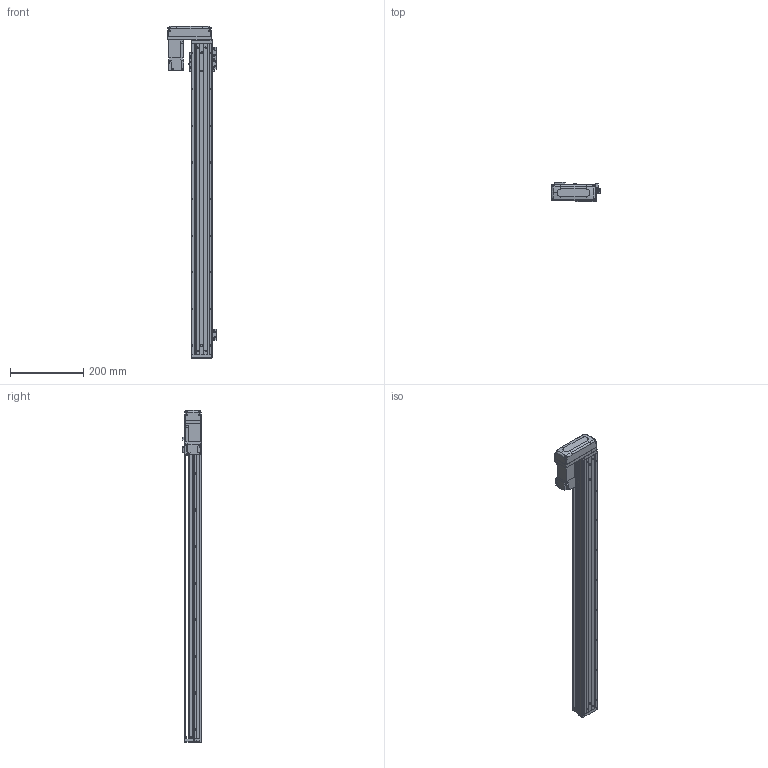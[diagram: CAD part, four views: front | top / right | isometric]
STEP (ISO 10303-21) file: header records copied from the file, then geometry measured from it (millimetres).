
FILE_DESCRIPTION (( 'STEP AP203' ), '1' );
FILE_NAME ('KTHA50-750-BR-M10-C4L.step', '2022-03-19T07:16:47', ( '微软用户' ), ( '微软中国' ), 'SwSTEP 2.0', 'SolidWorks 2020', '' );
FILE_SCHEMA (( 'CONFIG_CONTROL_DESIGN' ));
Length unit declared in the file: millimetre
Products named in the file (18): GBT77-2000 M3×3; HG-KR13（三菱）; KTHA50-001_850; GBT 70.1-M3℅6; CTHA50-015-2_CTHA60-015-2; KTHA50-002; CTHA60-017; CTHA60-033; KTHA50-004; GBT 70.1-M4×12; GBT 70.1-M3×15; KTHA50-005; CTHA60-016; KTHA50-750-BR-M10-C4L; GB¨uT 70.2-M3¡Á6_M3¡Á6; CTHA60-021; EE_SX911P_R; GBT 70.3-M3℅6
Assembly tree (53 placements, depth 2):
  KTHA50-750-BR-M10-C4L
    KTHA50-001_850
    KTHA50-002
    KTHA50-004
    KTHA50-005
    GB¨uT 70.2-M3¡Á6_M3¡Á6  x6
    EE_SX911P_R  x3
    GBT77-2000 M3×3  x6
    GBT 70.1-M3℅6  x6
    CTHA60-017  x3
    GBT 70.1-M4×12  x10
    CTHA60-016  x2
    CTHA60-021  x2
    GBT 70.3-M3℅6  x4
    HG-KR13（三菱）
    CTHA50-015-2_CTHA60-015-2
    CTHA60-033
    GBT 70.1-M3×15  x4
Bounding box: 133.82 x 52.3 x 907 mm (x, y, z)
Volume: 1737892.7 mm3; surface area: 424651 mm2
Topology: 56 solids, 56 shells, 2323 faces, 5519 edges, 3388 vertices
Faces by surface type: plane 1300, cylinder 568, cone 313, torus 100, bspline 26, sphere 16
Entity records: 40173 total; most frequent: CARTESIAN_POINT 7570, DIRECTION 6295, ORIENTED_EDGE 6050, EDGE_CURVE 3025, AXIS2_PLACEMENT_3D 2129, VECTOR 2037, LINE 2037, VERTEX_POINT 1902
